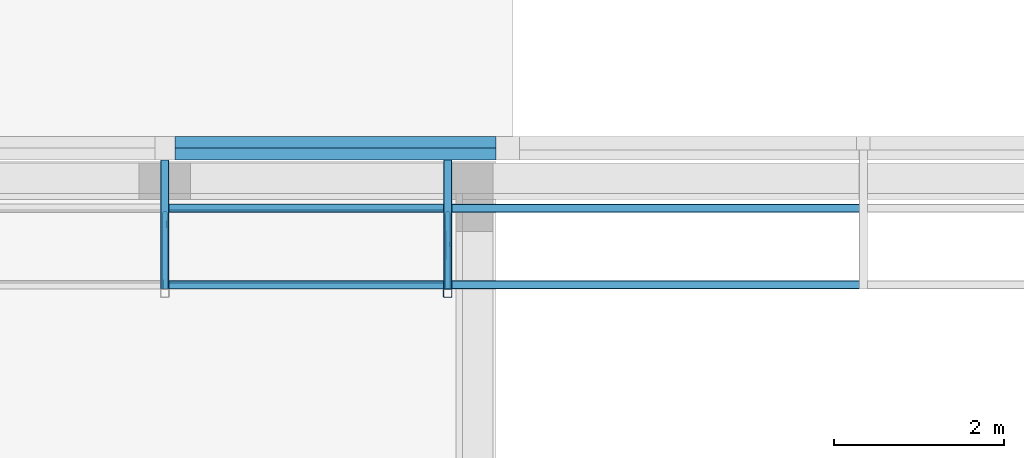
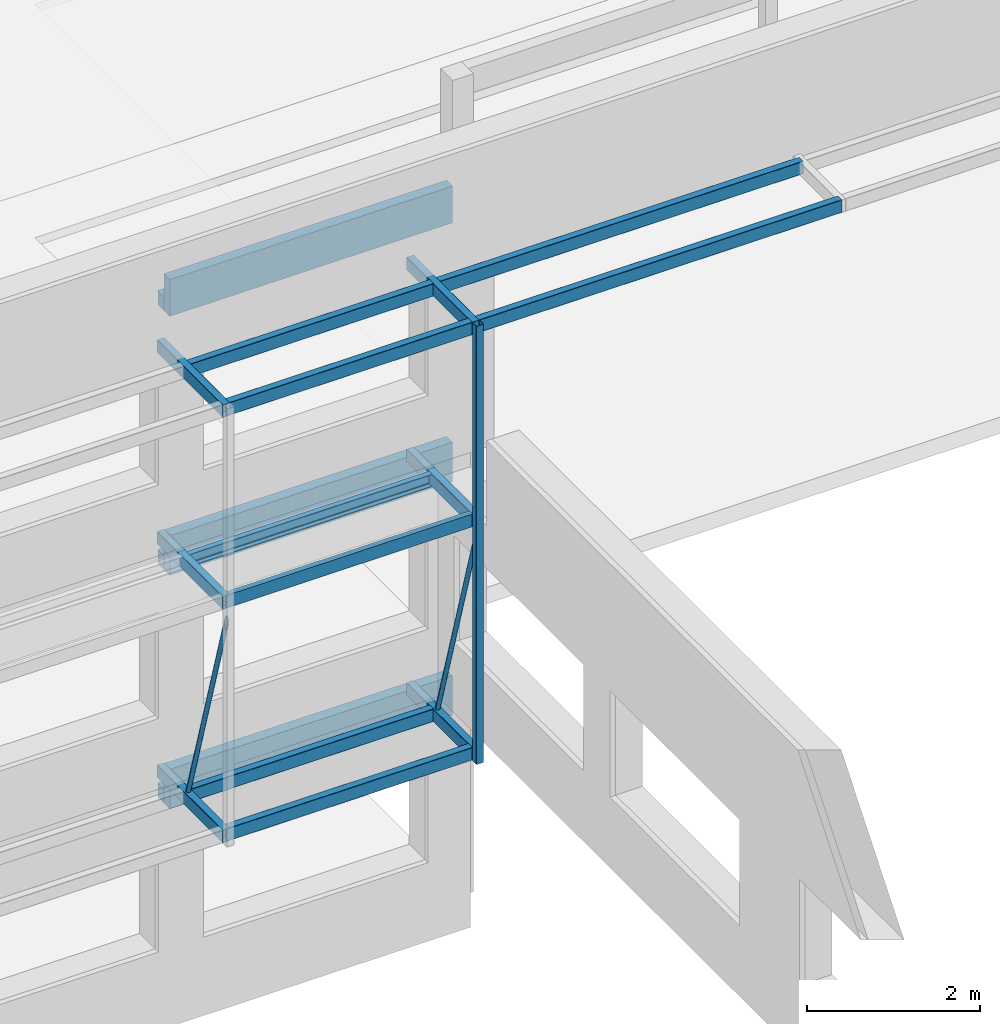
# One storey, part 24 of 78: 21 beams, 2 members, 16 elements without a shape of their own.
"""IFC2X3 building model written with IfcOpenShell, lengths in millimetres."""

from ifc_helpers import new_model, si_unit, frame, origin_with_axes, origin_2d_with_axis, place, context, subcontext, project, spatial, rectangle, hollow_rectangle, hollow_circle, u_section, extrude, clip, halfspace, material, type_object, element, aggregate, save


model = new_model("IFC2X3")

# Units and contexts
model_context = context("Model", 3, precision=1e-05, world=origin_with_axes())
body_context = subcontext(model_context, "Body", "Model", "MODEL_VIEW")
ifc_project = project(units=[si_unit("LENGTHUNIT", "METRE", prefix="MILLI"), si_unit("AREAUNIT", "SQUARE_METRE"), si_unit("VOLUMEUNIT", "CUBIC_METRE"), si_unit("MASSUNIT", "GRAM", prefix="KILO"), si_unit("TIMEUNIT", "SECOND"), si_unit("PLANEANGLEUNIT", "RADIAN"), si_unit("SOLIDANGLEUNIT", "STERADIAN"), si_unit("THERMODYNAMICTEMPERATUREUNIT", "DEGREE_CELSIUS"), si_unit("LUMINOUSINTENSITYUNIT", "LUMEN")], contexts=[model_context])

# Site, building, storey
site_placement = place(None, origin_with_axes())
site = spatial("IfcSite", under=ifc_project, at=site_placement, Name="Site", CompositionType="ELEMENT")
building_placement = place(site_placement, origin_with_axes())
building = spatial("IfcBuilding", under=site, at=building_placement, Name="Undefined", CompositionType="ELEMENT")
storey_placement = place(building_placement, origin_with_axes())
storey = spatial("IfcBuildingStorey", under=building, at=storey_placement, Name="Undefined", CompositionType="ELEMENT", Elevation=0.0)

# Assembly, beam
assembly_1_placement = place(storey_placement, origin_with_axes())
assembly_1 = element("IfcElementAssembly", 1, at=assembly_1_placement, inside=storey, Name="CONSOLE", AssemblyPlace="NOTDEFINED", PredefinedType="RIGID_FRAME")
ifc_material_1 = material(Name="STEEL/S275JR")
beam_type_1 = type_object("IfcBeamType", Name="TUBE-C-100*100*4", PredefinedType="NOTDEFINED")
beam_1_placement = place(assembly_1_placement, frame((-7651.43, -8663.0, 162680.04), z_axis=(0.0, 1.0, 0.0), x_axis=(0.0, 0.0, -1.0)))
beam_1 = element("IfcBeam", 2, at=beam_1_placement, type_object=beam_type_1, material=ifc_material_1, Name="CONSOLE", ObjectType="TUBE-C-100*100*4", context=body_context, shape_type="SweptSolid", body=[
    extrude(hollow_rectangle(XDim=100.0, YDim=100.0, WallThickness=4.0, InnerFilletRadius=4.0, OuterFilletRadius=8.0, at=origin_2d_with_axis()), frame((6190.0, 0.0, 0.0), z_axis=(-1.0, 0.0, 0.0), x_axis=(0.0, -1.0, 0.0)), (0.0, 0.0, 1.0), 6190.0),
])

assembly_2_placement = place(storey_placement, origin_with_axes())
assembly_2 = element("IfcElementAssembly", 3, at=assembly_2_placement, inside=storey, AssemblyPlace="NOTDEFINED", PredefinedType="RIGID_FRAME")
beam_type_2 = type_object("IfcBeamType", Name="TUBE-R-180*100*4", PredefinedType="NOTDEFINED")
beam_2_placement = place(assembly_2_placement, frame((-7651.43, -7663.00047683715, 162590.054194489), z_axis=(0.0, 0.0, 1.0), x_axis=(1.0, 0.0, 0.0)))
beam_2 = element("IfcBeam", 4, at=beam_2_placement, type_object=beam_type_2, material=ifc_material_1, Name="SOLIVE", ObjectType="TUBE-R-180*100*4", context=body_context, shape_type="SweptSolid", body=[
    extrude(hollow_rectangle(XDim=100.0, YDim=180.0, WallThickness=4.0, InnerFilletRadius=4.0, OuterFilletRadius=8.0, at=origin_2d_with_axis()), frame((4897.99999999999, 0.0, 0.0), z_axis=(-1.0, 0.0, 0.0), x_axis=(0.0, -1.0, 0.0)), (0.0, 0.0, 1.0), 4898.0),
])
aggregate(assembly_2, [beam_2])

assembly_3_placement = place(storey_placement, origin_with_axes())
assembly_3 = element("IfcElementAssembly", 5, at=assembly_3_placement, inside=storey, AssemblyPlace="NOTDEFINED", PredefinedType="RIGID_FRAME")
beam_3_placement = place(assembly_3_placement, frame((-7651.43, -8563.00047683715, 162590.054194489), z_axis=(0.0, 0.0, 1.0), x_axis=(1.0, 0.0, 0.0)))
beam_3 = element("IfcBeam", 6, at=beam_3_placement, type_object=beam_type_2, material=ifc_material_1, Name="SOLIVE", ObjectType="TUBE-R-180*100*4", context=body_context, shape_type="SweptSolid", body=[
    extrude(hollow_rectangle(XDim=100.0, YDim=180.0, WallThickness=4.0, InnerFilletRadius=4.0, OuterFilletRadius=8.0, at=origin_2d_with_axis()), frame((4897.99999999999, 0.0, 0.0), z_axis=(-1.0, 0.0, 0.0), x_axis=(0.0, -1.0, 0.0)), (0.0, 0.0, 1.0), 4898.0),
])
aggregate(assembly_3, [beam_3])

assembly_4_placement = place(storey_placement, origin_with_axes())
assembly_4 = element("IfcElementAssembly", 7, at=assembly_4_placement, inside=storey, AssemblyPlace="NOTDEFINED", PredefinedType="RIGID_FRAME")
beam_4_placement = place(assembly_4_placement, frame((-10985.0, -7663.00047683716, 162590.054194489), z_axis=(0.0, 0.0, 1.0), x_axis=(1.0, 0.0, 0.0)))
beam_4 = element("IfcBeam", 8, at=beam_4_placement, type_object=beam_type_2, material=ifc_material_1, Name="SOLIVE", ObjectType="TUBE-R-180*100*4", context=body_context, shape_type="SweptSolid", body=[
    extrude(hollow_rectangle(XDim=100.0, YDim=180.0, WallThickness=4.0, InnerFilletRadius=4.0, OuterFilletRadius=8.0, at=origin_2d_with_axis()), frame((3333.57000000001, 0.0, 0.0), z_axis=(-1.0, 0.0, 0.0), x_axis=(0.0, -1.0, 0.0)), (0.0, 0.0, 1.0), 3333.57),
])
aggregate(assembly_4, [beam_4])

assembly_5_placement = place(storey_placement, origin_with_axes())
assembly_5 = element("IfcElementAssembly", 9, at=assembly_5_placement, inside=storey, AssemblyPlace="NOTDEFINED", PredefinedType="RIGID_FRAME")
beam_5_placement = place(assembly_5_placement, frame((-10985.0, -8563.00047683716, 162590.054194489), z_axis=(0.0, 0.0, 1.0), x_axis=(1.0, 0.0, 0.0)))
beam_5 = element("IfcBeam", 10, at=beam_5_placement, type_object=beam_type_2, material=ifc_material_1, Name="SOLIVE", ObjectType="TUBE-R-180*100*4", context=body_context, shape_type="SweptSolid", body=[
    extrude(hollow_rectangle(XDim=100.0, YDim=180.0, WallThickness=4.0, InnerFilletRadius=4.0, OuterFilletRadius=8.0, at=origin_2d_with_axis()), frame((3333.57000000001, 0.0, 0.0), z_axis=(-1.0, 0.0, 0.0), x_axis=(0.0, -1.0, 0.0)), (0.0, 0.0, 1.0), 3333.57),
])
aggregate(assembly_5, [beam_5])

assembly_6_placement = place(storey_placement, origin_with_axes())
assembly_6 = element("IfcElementAssembly", 11, at=assembly_6_placement, inside=storey, AssemblyPlace="NOTDEFINED", PredefinedType="RIGID_FRAME")
beam_6_placement = place(assembly_6_placement, frame((-10985.0, -7663.00047683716, 156580.054194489), z_axis=(0.0, 0.0, 1.0), x_axis=(1.0, 0.0, 0.0)))
beam_6 = element("IfcBeam", 12, at=beam_6_placement, type_object=beam_type_2, material=ifc_material_1, Name="SOLIVE", ObjectType="TUBE-R-180*100*4", context=body_context, shape_type="SweptSolid", body=[
    extrude(hollow_rectangle(XDim=100.0, YDim=180.0, WallThickness=4.0, InnerFilletRadius=4.0, OuterFilletRadius=8.0, at=origin_2d_with_axis()), frame((3333.57000000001, 0.0, 0.0), z_axis=(-1.0, 0.0, 0.0), x_axis=(0.0, -1.0, 0.0)), (0.0, 0.0, 1.0), 3333.57),
])
aggregate(assembly_6, [beam_6])

assembly_7_placement = place(storey_placement, origin_with_axes())
assembly_7 = element("IfcElementAssembly", 13, at=assembly_7_placement, inside=storey, AssemblyPlace="NOTDEFINED", PredefinedType="RIGID_FRAME")
beam_7_placement = place(assembly_7_placement, frame((-10985.0, -8563.00047683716, 156580.054194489), z_axis=(0.0, 0.0, 1.0), x_axis=(1.0, 0.0, 0.0)))
beam_7 = element("IfcBeam", 14, at=beam_7_placement, type_object=beam_type_2, material=ifc_material_1, Name="SOLIVE", ObjectType="TUBE-R-180*100*4", context=body_context, shape_type="SweptSolid", body=[
    extrude(hollow_rectangle(XDim=100.0, YDim=180.0, WallThickness=4.0, InnerFilletRadius=4.0, OuterFilletRadius=8.0, at=origin_2d_with_axis()), frame((3333.57000000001, 0.0, 0.0), z_axis=(-1.0, 0.0, 0.0), x_axis=(0.0, -1.0, 0.0)), (0.0, 0.0, 1.0), 3333.57),
])
aggregate(assembly_7, [beam_7])

# Beam
beam_8_placement = place(assembly_1_placement, frame((-7651.43, -8613.0, 162590.04), z_axis=(0.0, 0.0, 1.0), x_axis=(0.0, 1.0, 0.0)))
beam_8 = element("IfcBeam", 15, at=beam_8_placement, type_object=beam_type_2, material=ifc_material_1, Name="CONSOLE", ObjectType="TUBE-R-180*100*4", context=body_context, shape_type="Clipping", body=[
    clip(extrude(hollow_rectangle(XDim=100.0, YDim=180.0, WallThickness=4.0, InnerFilletRadius=4.0, OuterFilletRadius=8.0, at=origin_2d_with_axis()), frame((1518.0000000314, 0.0, -1.28579601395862e-18), z_axis=(-1.0, 0.0, 0.0), x_axis=(0.0, -1.0, 0.0)), (0.0, 0.0, 1.0), 1518.0), halfspace(frame((0.0, 0.0, 1090.0), z_axis=(-1.0, 0.0, 0.0), x_axis=(0.0, -1.0, 0.0)), False)),
])

beam_9_placement = place(assembly_1_placement, frame((-7651.43, -8613.0, 156580.04), z_axis=(0.0, 0.0, 1.0), x_axis=(0.0, 1.0, 0.0)))
beam_9 = element("IfcBeam", 16, at=beam_9_placement, type_object=beam_type_2, material=ifc_material_1, Name="CONSOLE", ObjectType="TUBE-R-180*100*4", context=body_context, shape_type="Clipping", body=[
    clip(extrude(hollow_rectangle(XDim=100.0, YDim=180.0, WallThickness=4.0, InnerFilletRadius=4.0, OuterFilletRadius=8.0, at=origin_2d_with_axis()), frame((1518.0000000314, 0.0, -1.28579601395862e-18), z_axis=(-1.0, 0.0, 0.0), x_axis=(0.0, -1.0, 0.0)), (0.0, 0.0, 1.0), 1518.0), halfspace(frame((0.0, 0.0, 1090.0), z_axis=(-1.0, 0.0, 0.0), x_axis=(0.0, -1.0, 0.0)), False)),
])

beam_10_placement = place(assembly_1_placement, frame((-7651.43, -8613.0, 159880.04), z_axis=(0.0, 0.0, 1.0), x_axis=(0.0, 1.0, 0.0)))
beam_10 = element("IfcBeam", 17, at=beam_10_placement, type_object=beam_type_2, material=ifc_material_1, Name="CONSOLE", ObjectType="TUBE-R-180*100*4", context=body_context, shape_type="Clipping", body=[
    clip(extrude(hollow_rectangle(XDim=100.0, YDim=180.0, WallThickness=4.0, InnerFilletRadius=4.0, OuterFilletRadius=8.0, at=origin_2d_with_axis()), frame((1518.0000000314, 0.0, -1.28579601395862e-18), z_axis=(-1.0, 0.0, 0.0), x_axis=(0.0, -1.0, 0.0)), (0.0, 0.0, 1.0), 1518.0), halfspace(frame((0.0, 0.0, 1090.0), z_axis=(-1.0, 0.0, 0.0), x_axis=(0.0, -1.0, 0.0)), False)),
])

# Assembly, beams
assembly_8_placement = place(storey_placement, origin_with_axes())
assembly_8 = element("IfcElementAssembly", 18, at=assembly_8_placement, inside=storey, Name="CONSOLE", AssemblyPlace="NOTDEFINED", PredefinedType="RIGID_FRAME")
beam_11_placement = place(assembly_8_placement, frame((-10985.0, -8613.0, 162590.04), z_axis=(0.0, 0.0, 1.0), x_axis=(0.0, 1.0, 0.0)))
beam_11 = element("IfcBeam", 19, at=beam_11_placement, type_object=beam_type_2, material=ifc_material_1, Name="CONSOLE", ObjectType="TUBE-R-180*100*4", context=body_context, shape_type="Clipping", body=[
    clip(extrude(hollow_rectangle(XDim=100.0, YDim=180.0, WallThickness=4.0, InnerFilletRadius=4.0, OuterFilletRadius=8.0, at=origin_2d_with_axis()), frame((1518.0000000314, 0.0, -1.28579601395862e-18), z_axis=(-1.0, 0.0, 0.0), x_axis=(0.0, -1.0, 0.0)), (0.0, 0.0, 1.0), 1518.0), halfspace(frame((0.0, 0.0, 1090.0), z_axis=(-1.0, 0.0, 0.0), x_axis=(0.0, -1.0, 0.0)), False)),
])
beam_12_placement = place(assembly_8_placement, frame((-10985.0, -8613.0, 156580.04), z_axis=(0.0, 0.0, 1.0), x_axis=(0.0, 1.0, 0.0)))
beam_12 = element("IfcBeam", 20, at=beam_12_placement, type_object=beam_type_2, material=ifc_material_1, Name="CONSOLE", ObjectType="TUBE-R-180*100*4", context=body_context, shape_type="Clipping", body=[
    clip(extrude(hollow_rectangle(XDim=100.0, YDim=180.0, WallThickness=4.0, InnerFilletRadius=4.0, OuterFilletRadius=8.0, at=origin_2d_with_axis()), frame((1518.0000000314, 0.0, -1.28579601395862e-18), z_axis=(-1.0, 0.0, 0.0), x_axis=(0.0, -1.0, 0.0)), (0.0, 0.0, 1.0), 1518.0), halfspace(frame((0.0, 0.0, 1090.0), z_axis=(-1.0, 0.0, 0.0), x_axis=(0.0, -1.0, 0.0)), False)),
])
beam_13_placement = place(assembly_8_placement, frame((-10985.0, -8613.0, 159880.04), z_axis=(0.0, 0.0, 1.0), x_axis=(0.0, 1.0, 0.0)))
beam_13 = element("IfcBeam", 21, at=beam_13_placement, type_object=beam_type_2, material=ifc_material_1, Name="CONSOLE", ObjectType="TUBE-R-180*100*4", context=body_context, shape_type="Clipping", body=[
    clip(extrude(hollow_rectangle(XDim=100.0, YDim=180.0, WallThickness=4.0, InnerFilletRadius=4.0, OuterFilletRadius=8.0, at=origin_2d_with_axis()), frame((1518.0000000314, 0.0, -1.28579601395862e-18), z_axis=(-1.0, 0.0, 0.0), x_axis=(0.0, -1.0, 0.0)), (0.0, 0.0, 1.0), 1518.0), halfspace(frame((0.0, 0.0, 1090.0), z_axis=(-1.0, 0.0, 0.0), x_axis=(0.0, -1.0, 0.0)), False)),
])

# Member
member_type = type_object("IfcMemberType", Name="TUBE-60.3*4", PredefinedType="NOTDEFINED")
member_1_placement = place(assembly_1_placement, frame((-7651.43, -8703.00000000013, 159880.039999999), z_axis=(0.0, -0.957024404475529, -0.290007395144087), x_axis=(0.0, 0.290007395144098, -0.957024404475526)))
member_1 = element("IfcMember", 22, at=member_1_placement, type_object=member_type, material=ifc_material_1, Name="STAB", ObjectType="TUBE-60.3*4", context=body_context, shape_type="Clipping", body=[
    clip(clip(extrude(hollow_circle(Radius=30.14999962, WallThickness=4.0, at=origin_2d_with_axis()), frame((3463.86411679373, 0.0, 0.0), z_axis=(-1.0, 0.0, 0.0), x_axis=(0.0, -1.0, 0.0)), (0.0, 0.0, 1.0), 3463.86), halfspace(frame((2808.14160878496, 0.0, 1801.81594648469), z_axis=(0.957024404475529, 0.0, 0.290007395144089), x_axis=(0.0, 1.0, 0.0)), False)), halfspace(frame((-939.291695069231, 0.0, -378.6753358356), z_axis=(-0.290007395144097, 0.0, 0.957024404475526), x_axis=(0.0, 1.0, 0.0)), False)),
])

aggregate(assembly_1, [member_1, beam_1, beam_8, beam_9, beam_10])

member_2_placement = place(assembly_8_placement, frame((-10985.0, -8703.00000000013, 159880.039999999), z_axis=(0.0, -0.957024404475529, -0.290007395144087), x_axis=(0.0, 0.290007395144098, -0.957024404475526)))
member_2 = element("IfcMember", 23, at=member_2_placement, type_object=member_type, material=ifc_material_1, Name="STAB", ObjectType="TUBE-60.3*4", context=body_context, shape_type="Clipping", body=[
    clip(clip(extrude(hollow_circle(Radius=30.14999962, WallThickness=4.0, at=origin_2d_with_axis()), frame((3463.86411679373, 0.0, 0.0), z_axis=(-1.0, 0.0, 0.0), x_axis=(0.0, -1.0, 0.0)), (0.0, 0.0, 1.0), 3463.86), halfspace(frame((2808.14160878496, 0.0, 1801.81594648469), z_axis=(0.957024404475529, 0.0, 0.290007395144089), x_axis=(0.0, 1.0, 0.0)), False)), halfspace(frame((-939.291695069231, 0.0, -378.6753358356), z_axis=(-0.290007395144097, 0.0, 0.957024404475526), x_axis=(0.0, 1.0, 0.0)), False)),
])

aggregate(assembly_8, [member_2, beam_11, beam_12, beam_13])

# Assembly, beam
assembly_9_placement = place(storey_placement, origin_with_axes())
assembly_9 = element("IfcElementAssembly", 24, at=assembly_9_placement, inside=storey, AssemblyPlace="NOTDEFINED", PredefinedType="RIGID_FRAME")
beam_type_3 = type_object("IfcBeamType", Name="UPN180", PredefinedType="NOTDEFINED")
beam_14_placement = place(assembly_9_placement, frame((-10985.0, -7648.0, 159880.04), z_axis=(0.0, 0.0, 1.0), x_axis=(1.0, 0.0, 0.0)))
beam_14 = element("IfcBeam", 25, at=beam_14_placement, type_object=beam_type_3, material=ifc_material_1, Name="SOLIVE", ObjectType="UPN180", context=body_context, shape_type="SweptSolid", body=[
    extrude(u_section(Depth=180.0, FlangeWidth=70.0, WebThickness=8.0, FlangeThickness=11.0, FilletRadius=11.0, EdgeRadius=5.5, FlangeSlope=0.0798299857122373, at=origin_2d_with_axis()), frame((3333.57000000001, 0.0, 0.0), z_axis=(-1.0, 0.0, 0.0), x_axis=(0.0, -1.0, 0.0)), (0.0, 0.0, 1.0), 3333.57),
])
aggregate(assembly_9, [beam_14])

assembly_10_placement = place(storey_placement, origin_with_axes())
assembly_10 = element("IfcElementAssembly", 26, at=assembly_10_placement, inside=storey, AssemblyPlace="NOTDEFINED", PredefinedType="RIGID_FRAME")
beam_15_placement = place(assembly_10_placement, frame((-10985.0, -8578.0, 159880.04), z_axis=(0.0, 0.0, -1.0), x_axis=(1.0, 0.0, 0.0)))
beam_15 = element("IfcBeam", 27, at=beam_15_placement, type_object=beam_type_3, material=ifc_material_1, Name="SOLIVE", ObjectType="UPN180", context=body_context, shape_type="SweptSolid", body=[
    extrude(u_section(Depth=180.0, FlangeWidth=70.0, WebThickness=8.0, FlangeThickness=11.0, FilletRadius=11.0, EdgeRadius=5.5, FlangeSlope=0.0798299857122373, at=origin_2d_with_axis()), frame((3333.57000000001, 0.0, 0.0), z_axis=(-1.0, 0.0, 0.0), x_axis=(0.0, -1.0, 0.0)), (0.0, 0.0, 1.0), 3333.57),
])
aggregate(assembly_10, [beam_15])

assembly_11_placement = place(storey_placement, origin_with_axes())
assembly_11 = element("IfcElementAssembly", 28, at=assembly_11_placement, inside=storey, Name="POUTRE", AssemblyPlace="NOTDEFINED", PredefinedType="NOTDEFINED")
ifc_material_2 = material(Name="TIMBER/CHENE")
beam_type_4 = type_object("IfcBeamType", Name="520*140", PredefinedType="NOTDEFINED")
beam_16_placement = place(assembly_11_placement, frame((-7083.43219757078, -7024.99992370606, 163210.042724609), z_axis=(0.0, 0.0, 1.0), x_axis=(-1.0, 0.0, 0.0)))
beam_16 = element("IfcBeam", 29, at=beam_16_placement, type_object=beam_type_4, material=ifc_material_2, Name="POUTRE", ObjectType="520*140", context=body_context, shape_type="SweptSolid", body=[
    extrude(rectangle(XDim=140.0, YDim=520.0, at=origin_2d_with_axis()), frame((3780.0006866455, 0.0, 0.0), z_axis=(-1.0, 0.0, 0.0), x_axis=(0.0, -1.0, 0.0)), (0.0, 0.0, 1.0), 3780.0),
])
aggregate(assembly_11, [beam_16])

assembly_12_placement = place(storey_placement, origin_with_axes())
assembly_12 = element("IfcElementAssembly", 30, at=assembly_12_placement, inside=storey, Name="POUTRE", AssemblyPlace="NOTDEFINED", PredefinedType="NOTDEFINED")
beam_type_5 = type_object("IfcBeamType", Name="200*140", PredefinedType="NOTDEFINED")
beam_17_placement = place(assembly_12_placement, frame((-7083.43219757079, -6885.00053405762, 163050.042724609), z_axis=(0.0, 0.0, 1.0), x_axis=(-1.0, 0.0, 0.0)))
beam_17 = element("IfcBeam", 31, at=beam_17_placement, type_object=beam_type_5, material=ifc_material_2, Name="POUTRE", ObjectType="200*140", context=body_context, shape_type="SweptSolid", body=[
    extrude(rectangle(XDim=140.0, YDim=200.0, at=origin_2d_with_axis()), frame((3780.0006866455, 0.0, 0.0), z_axis=(-1.0, 0.0, 0.0), x_axis=(0.0, -1.0, 0.0)), (0.0, 0.0, 1.0), 3780.0),
])
aggregate(assembly_12, [beam_17])

assembly_13_placement = place(storey_placement, origin_with_axes())
assembly_13 = element("IfcElementAssembly", 32, at=assembly_13_placement, inside=storey, Name="POUTRE", AssemblyPlace="NOTDEFINED", PredefinedType="NOTDEFINED")
beam_18_placement = place(assembly_13_placement, frame((-7083.43219757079, -6885.00053405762, 159390.0390625), z_axis=(0.0, 0.0, 1.0), x_axis=(-1.0, 0.0, 0.0)))
beam_18 = element("IfcBeam", 33, at=beam_18_placement, type_object=beam_type_5, material=ifc_material_2, Name="POUTRE", ObjectType="200*140", context=body_context, shape_type="SweptSolid", body=[
    extrude(rectangle(XDim=140.0, YDim=200.0, at=origin_2d_with_axis()), frame((3780.0006866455, 0.0, 0.0), z_axis=(-1.0, 0.0, 0.0), x_axis=(0.0, -1.0, 0.0)), (0.0, 0.0, 1.0), 3780.0),
])
aggregate(assembly_13, [beam_18])

assembly_14_placement = place(storey_placement, origin_with_axes())
assembly_14 = element("IfcElementAssembly", 34, at=assembly_14_placement, inside=storey, Name="POUTRE", AssemblyPlace="NOTDEFINED", PredefinedType="NOTDEFINED")
beam_19_placement = place(assembly_14_placement, frame((-7083.4321065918, -6885.00083281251, 156090.036499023), z_axis=(0.0, 0.0, 1.0), x_axis=(-1.0, 0.0, 0.0)))
beam_19 = element("IfcBeam", 35, at=beam_19_placement, type_object=beam_type_5, material=ifc_material_2, Name="POUTRE", ObjectType="200*140", context=body_context, shape_type="SweptSolid", body=[
    extrude(rectangle(XDim=140.0, YDim=200.0, at=origin_2d_with_axis()), frame((3780.0006866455, 0.0, 0.0), z_axis=(-1.0, 0.0, 0.0), x_axis=(0.0, -1.0, 0.0)), (0.0, 0.0, 1.0), 3780.0),
])
aggregate(assembly_14, [beam_19])

assembly_15_placement = place(storey_placement, origin_with_axes())
assembly_15 = element("IfcElementAssembly", 36, at=assembly_15_placement, inside=storey, Name="POUTRE", AssemblyPlace="NOTDEFINED", PredefinedType="NOTDEFINED")
beam_type_6 = type_object("IfcBeamType", Name="560*140", PredefinedType="NOTDEFINED")
beam_20_placement = place(assembly_15_placement, frame((-7083.43219757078, -7024.99992370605, 159570.0390625), z_axis=(0.0, 0.0, 1.0), x_axis=(-1.0, 0.0, 0.0)))
beam_20 = element("IfcBeam", 37, at=beam_20_placement, type_object=beam_type_6, material=ifc_material_2, Name="POUTRE", ObjectType="560*140", context=body_context, shape_type="SweptSolid", body=[
    extrude(rectangle(XDim=140.0, YDim=560.0, at=origin_2d_with_axis()), frame((3780.0006866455, 0.0, 0.0), z_axis=(-1.0, 0.0, 0.0), x_axis=(0.0, -1.0, 0.0)), (0.0, 0.0, 1.0), 3780.0),
])
aggregate(assembly_15, [beam_20])

assembly_16_placement = place(storey_placement, origin_with_axes())
assembly_16 = element("IfcElementAssembly", 38, at=assembly_16_placement, inside=storey, Name="POUTRE", AssemblyPlace="NOTDEFINED", PredefinedType="NOTDEFINED")
beam_21_placement = place(assembly_16_placement, frame((-7083.43210659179, -7025.00022246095, 156270.036499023), z_axis=(0.0, 0.0, 1.0), x_axis=(-1.0, 0.0, 0.0)))
beam_21 = element("IfcBeam", 39, at=beam_21_placement, type_object=beam_type_6, material=ifc_material_2, Name="POUTRE", ObjectType="560*140", context=body_context, shape_type="SweptSolid", body=[
    extrude(rectangle(XDim=140.0, YDim=560.0, at=origin_2d_with_axis()), frame((3780.0006866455, 0.0, 0.0), z_axis=(-1.0, 0.0, 0.0), x_axis=(0.0, -1.0, 0.0)), (0.0, 0.0, 1.0), 3780.0),
])
aggregate(assembly_16, [beam_21])

save(model, "model.ifc")
